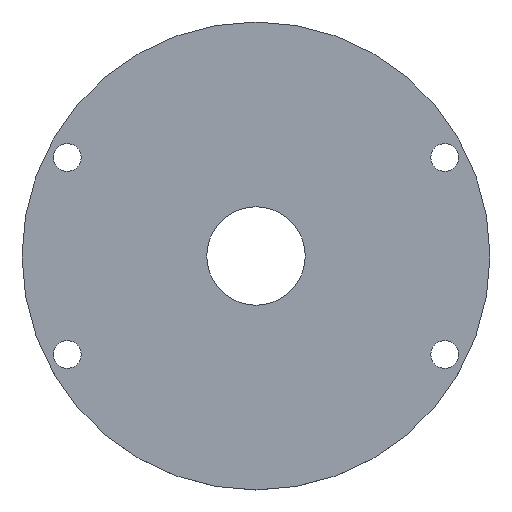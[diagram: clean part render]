
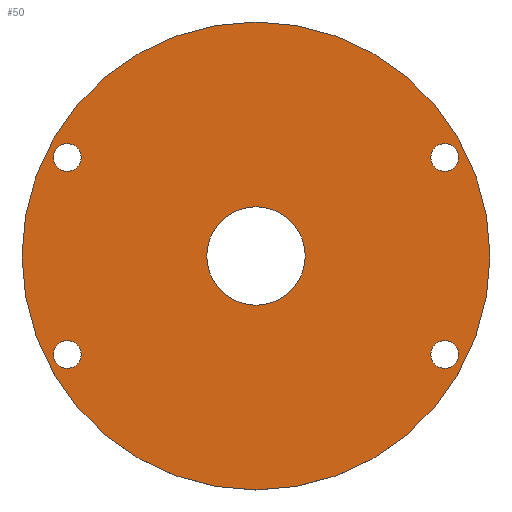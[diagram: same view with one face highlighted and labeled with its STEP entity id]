
A CAD part, top view. The second image highlights one B-rep face of the part: STEP entity #50.
In plain terms, the highlighted planar face has unit normal (0, 0, 1).
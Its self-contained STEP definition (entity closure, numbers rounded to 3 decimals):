
#21 = EDGE_CURVE('',#22,#22,#24,.T.);
#22 = VERTEX_POINT('',#23);
#23 = CARTESIAN_POINT('',(28.5,0.,150.6));
#24 = CIRCLE('',#25,28.5);
#25 = AXIS2_PLACEMENT_3D('',#26,#27,#28);
#26 = CARTESIAN_POINT('',(0.,0.,150.6));
#27 = DIRECTION('',(0.,0.,1.));
#28 = DIRECTION('',(1.,0.,0.));
#50 = ADVANCED_FACE('',(#51,#54,#65,#76,#87,#98),#109,.T.);
#51 = FACE_BOUND('',#52,.T.);
#52 = EDGE_LOOP('',(#53));
#53 = ORIENTED_EDGE('',*,*,#21,.T.);
#54 = FACE_BOUND('',#55,.T.);
#55 = EDGE_LOOP('',(#56));
#56 = ORIENTED_EDGE('',*,*,#57,.F.);
#57 = EDGE_CURVE('',#58,#58,#60,.T.);
#58 = VERTEX_POINT('',#59);
#59 = CARTESIAN_POINT('',(-21.3,-12.,150.6));
#60 = CIRCLE('',#61,1.7);
#61 = AXIS2_PLACEMENT_3D('',#62,#63,#64);
#62 = CARTESIAN_POINT('',(-23.,-12.,150.6));
#63 = DIRECTION('',(0.,0.,1.));
#64 = DIRECTION('',(1.,0.,0.));
#65 = FACE_BOUND('',#66,.T.);
#66 = EDGE_LOOP('',(#67));
#67 = ORIENTED_EDGE('',*,*,#68,.F.);
#68 = EDGE_CURVE('',#69,#69,#71,.T.);
#69 = VERTEX_POINT('',#70);
#70 = CARTESIAN_POINT('',(24.7,-12.,150.6));
#71 = CIRCLE('',#72,1.7);
#72 = AXIS2_PLACEMENT_3D('',#73,#74,#75);
#73 = CARTESIAN_POINT('',(23.,-12.,150.6));
#74 = DIRECTION('',(0.,0.,1.));
#75 = DIRECTION('',(1.,0.,0.));
#76 = FACE_BOUND('',#77,.T.);
#77 = EDGE_LOOP('',(#78));
#78 = ORIENTED_EDGE('',*,*,#79,.F.);
#79 = EDGE_CURVE('',#80,#80,#82,.T.);
#80 = VERTEX_POINT('',#81);
#81 = CARTESIAN_POINT('',(-21.3,12.,150.6));
#82 = CIRCLE('',#83,1.7);
#83 = AXIS2_PLACEMENT_3D('',#84,#85,#86);
#84 = CARTESIAN_POINT('',(-23.,12.,150.6));
#85 = DIRECTION('',(0.,0.,1.));
#86 = DIRECTION('',(1.,0.,0.));
#87 = FACE_BOUND('',#88,.T.);
#88 = EDGE_LOOP('',(#89));
#89 = ORIENTED_EDGE('',*,*,#90,.F.);
#90 = EDGE_CURVE('',#91,#91,#93,.T.);
#91 = VERTEX_POINT('',#92);
#92 = CARTESIAN_POINT('',(6.,0.,150.6));
#93 = CIRCLE('',#94,6.);
#94 = AXIS2_PLACEMENT_3D('',#95,#96,#97);
#95 = CARTESIAN_POINT('',(0.,0.,150.6));
#96 = DIRECTION('',(0.,0.,1.));
#97 = DIRECTION('',(1.,0.,0.));
#98 = FACE_BOUND('',#99,.T.);
#99 = EDGE_LOOP('',(#100));
#100 = ORIENTED_EDGE('',*,*,#101,.F.);
#101 = EDGE_CURVE('',#102,#102,#104,.T.);
#102 = VERTEX_POINT('',#103);
#103 = CARTESIAN_POINT('',(24.7,12.,150.6));
#104 = CIRCLE('',#105,1.7);
#105 = AXIS2_PLACEMENT_3D('',#106,#107,#108);
#106 = CARTESIAN_POINT('',(23.,12.,150.6));
#107 = DIRECTION('',(0.,0.,1.));
#108 = DIRECTION('',(1.,0.,0.));
#109 = PLANE('',#110);
#110 = AXIS2_PLACEMENT_3D('',#111,#112,#113);
#111 = CARTESIAN_POINT('',(0.,0.,150.6));
#112 = DIRECTION('',(0.,0.,1.));
#113 = DIRECTION('',(1.,0.,0.));
